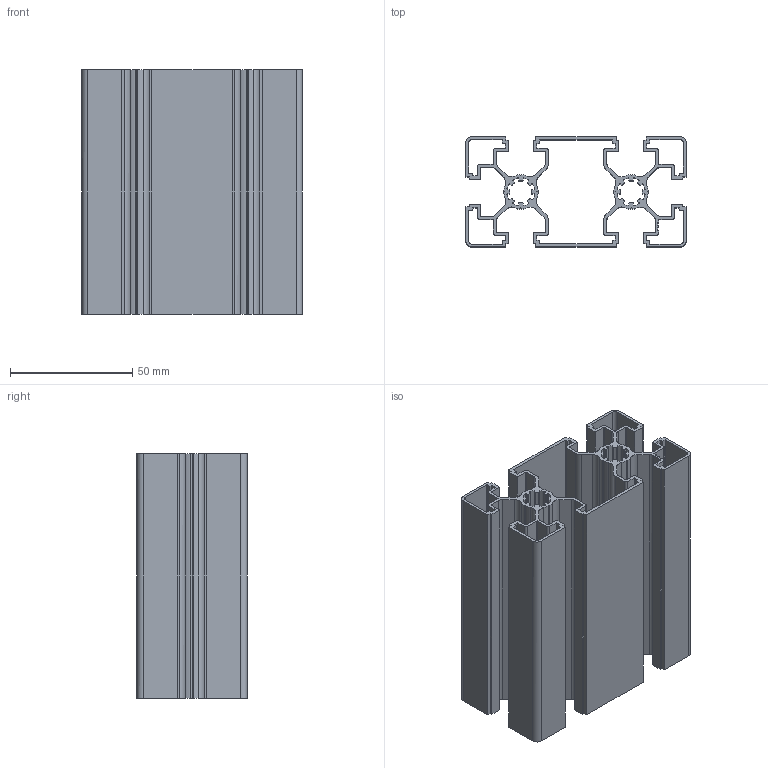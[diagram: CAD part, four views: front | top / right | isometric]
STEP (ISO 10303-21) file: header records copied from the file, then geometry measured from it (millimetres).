
FILE_DESCRIPTION (( 'STEP AP203' ), '1' );
FILE_NAME ('45x90 Super Light Sigma Profile.STEP', '2022-01-31T16:30:21', ( '' ), ( '' ), 'SwSTEP 2.0', 'SolidWorks 2018', '' );
FILE_SCHEMA (( 'CONFIG_CONTROL_DESIGN' ));
Length unit declared in the file: millimetre
Products named in the file (1): 45x90 Super Light Sigma Profile
Bounding box: 90 x 45 x 100 mm (x, y, z)
Volume: 71340.7 mm3; surface area: 107183.5 mm2
Topology: 1 solids, 1 shells, 440 faces, 1314 edges, 876 vertices
Faces by surface type: bspline 440
Entity records: 14892 total; most frequent: CARTESIAN_POINT 7409, ORIENTED_EDGE 2628, EDGE_CURVE 1314, B_SPLINE_CURVE_WITH_KNOTS 1022, VERTEX_POINT 876, EDGE_LOOP 454, ADVANCED_FACE 440, FACE_OUTER_BOUND 440
